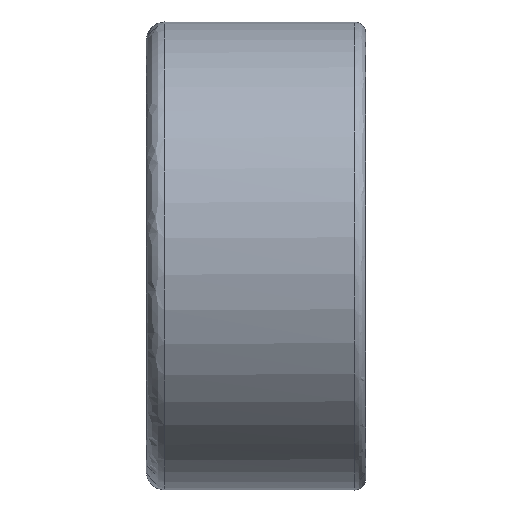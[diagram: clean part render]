
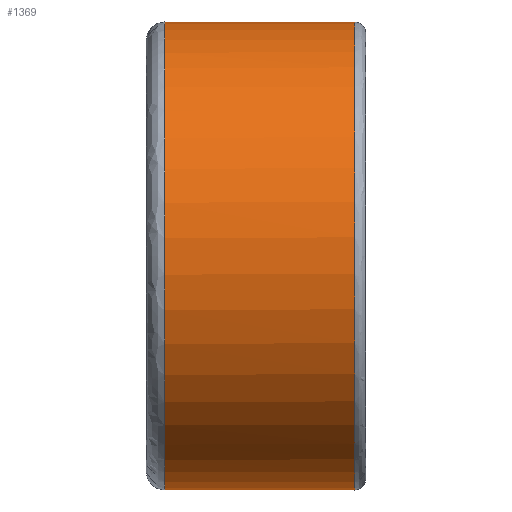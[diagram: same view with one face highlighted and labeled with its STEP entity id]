
A CAD part, front view. The second image highlights one B-rep face of the part: STEP entity #1369.
In plain terms, the highlighted free-form (B-spline) face has degree [2, 1] with [7, 2] control points.
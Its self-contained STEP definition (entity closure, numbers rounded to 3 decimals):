
#119=CARTESIAN_POINT('V3',(28.5,32.0,0.));
#120=VERTEX_POINT('V3',#119);
#136=CARTESIAN_POINT('E6',(28.5,32.0,0.));
#137=CARTESIAN_POINT('E6',(28.5,32.0,
   -55.426));
#138=CARTESIAN_POINT('E6',(28.5,-16.0,
   -27.713));
#139=CARTESIAN_POINT('E6',(28.5,-64.0,0.)
   );
#140=CARTESIAN_POINT('E6',(28.5,-16.0,
   27.713));
#141=CARTESIAN_POINT('E6',(28.5,32.0,
   55.426));
#142=CARTESIAN_POINT('E6',(28.5,32.0,0.));
#150=(BOUNDED_CURVE()B_SPLINE_CURVE(2,(#136,#137,#138,#139,#140,
   #141,#142),.CIRCULAR_ARC.,.T.,.U.)B_SPLINE_CURVE_WITH_KNOTS((3,
   2,2,3),(2.0,29.111,56.222,
   83.333),.UNSPECIFIED.)CURVE()
   GEOMETRIC_REPRESENTATION_ITEM()RATIONAL_B_SPLINE_CURVE((1.0,
   0.5,1.0,0.5,1.0,0.5,1.0)
   )REPRESENTATION_ITEM('E6'));
#151=EDGE_CURVE('E6',#120,#120,#150,.T.);
#226=CARTESIAN_POINT('V1',(2.5,32.0,0.0));
#227=VERTEX_POINT('V1',#226);
#243=CARTESIAN_POINT('E3',(2.5,32.0,0.));
#244=CARTESIAN_POINT('E3',(2.5,32.0,55.426)
   );
#245=CARTESIAN_POINT('E3',(2.5,-16.0,
   27.713));
#246=CARTESIAN_POINT('E3',(2.5,-64.0,0.));
#247=CARTESIAN_POINT('E3',(2.5,-16.0,
   -27.713));
#248=CARTESIAN_POINT('E3',(2.5,32.0,
   -55.426));
#249=CARTESIAN_POINT('E3',(2.5,32.0,0.));
#257=(BOUNDED_CURVE()B_SPLINE_CURVE(2,(#243,#244,#245,#246,#247,
   #248,#249),.CIRCULAR_ARC.,.T.,.U.)B_SPLINE_CURVE_WITH_KNOTS((3,
   2,2,3),(2.0,17.733,33.467,
   49.2),.UNSPECIFIED.)CURVE()
   GEOMETRIC_REPRESENTATION_ITEM()RATIONAL_B_SPLINE_CURVE((1.0,
   0.5,1.0,0.5,1.0,0.5,1.0)
   )REPRESENTATION_ITEM('E3'));
#258=EDGE_CURVE('E3',#227,#227,#257,.T.);
#268=CARTESIAN_POINT('V30',(3.,32.0,0.)
   );
#269=VERTEX_POINT('V30',#268);
#270=CARTESIAN_POINT('V31',(3.,31.225,
   -7.));
#271=VERTEX_POINT('V31',#270);
#272=CARTESIAN_POINT('E46',(3.,32.0,0.)
   );
#273=CARTESIAN_POINT('E46',(3.,32.0,
   -3.543));
#274=CARTESIAN_POINT('E46',(3.,31.225,
   -7.));
#282=(BOUNDED_CURVE()B_SPLINE_CURVE(2,(#272,#273,#274),
   .CIRCULAR_ARC.,.F.,.U.)B_SPLINE_CURVE_WITH_KNOTS((3,3),(0.0,
   0.986),.UNSPECIFIED.)CURVE()
   GEOMETRIC_REPRESENTATION_ITEM()RATIONAL_B_SPLINE_CURVE((1.0,
   0.94,0.894))REPRESENTATION_ITEM('E46'));
#283=EDGE_CURVE('E46',#269,#271,#282,.T.);
#285=CARTESIAN_POINT('V29',(3.,31.225,
   7.));
#286=VERTEX_POINT('V29',#285);
#287=CARTESIAN_POINT('E44',(3.,31.225,
   7.));
#288=CARTESIAN_POINT('E44',(3.,32.0,3.543)
   );
#289=CARTESIAN_POINT('E44',(3.,32.0,0.)
   );
#297=(BOUNDED_CURVE()B_SPLINE_CURVE(2,(#287,#288,#289),
   .CIRCULAR_ARC.,.F.,.U.)B_SPLINE_CURVE_WITH_KNOTS((3,3),(
   0.014,1.0),.UNSPECIFIED.)CURVE()
   GEOMETRIC_REPRESENTATION_ITEM()RATIONAL_B_SPLINE_CURVE((
   0.894,0.94,1.0))REPRESENTATION_ITEM('E44'
   ));
#298=EDGE_CURVE('E44',#286,#269,#297,.T.);
#329=CARTESIAN_POINT('V32',(17.,31.225,
   -7.));
#330=VERTEX_POINT('V32',#329);
#331=CARTESIAN_POINT('E47',(3.,31.225,
   -7.));
#332=CARTESIAN_POINT('E47',(17.,31.225,
   -7.));
#333=B_SPLINE_CURVE_WITH_KNOTS('E47',1,(#331,#332),.POLYLINE_FORM.,
   .F.,.U.,(2,2),(0.007,0.993),
   .UNSPECIFIED.);
#334=EDGE_CURVE('E47',#271,#330,#333,.T.);
#1282=CARTESIAN_POINT('V28',(17.,31.225,
   7.));
#1283=VERTEX_POINT('V28',#1282);
#1284=CARTESIAN_POINT('E43',(17.,31.225,
   7.));
#1285=CARTESIAN_POINT('E43',(3.,31.225,
   7.));
#1286=B_SPLINE_CURVE_WITH_KNOTS('E43',1,(#1284,#1285),
   .POLYLINE_FORM.,.F.,.U.,(2,2),(0.007,
   0.993),.UNSPECIFIED.);
#1287=EDGE_CURVE('E43',#1283,#286,#1286,.T.);
#1299=CARTESIAN_POINT('F24',(30.1,32.0,0.)
   );
#1300=CARTESIAN_POINT('F24',(30.1,32.0,
   -55.426));
#1301=CARTESIAN_POINT('F24',(30.1,-16.0,
   -27.713));
#1302=CARTESIAN_POINT('F24',(30.1,-64.0,0.)
   );
#1303=CARTESIAN_POINT('F24',(30.1,-16.0,
   27.713));
#1304=CARTESIAN_POINT('F24',(30.1,32.0,
   55.426));
#1305=CARTESIAN_POINT('F24',(30.1,32.0,0.)
   );
#1306=CARTESIAN_POINT('F24',(-0.1,32.0,0.)
   );
#1307=CARTESIAN_POINT('F24',(-0.1,32.0,
   -55.426));
#1308=CARTESIAN_POINT('F24',(-0.1,-16.0,
   -27.713));
#1309=CARTESIAN_POINT('F24',(-0.1,-64.0,0.)
   );
#1310=CARTESIAN_POINT('F24',(-0.1,-16.0,
   27.713));
#1311=CARTESIAN_POINT('F24',(-0.1,32.0,
   55.426));
#1312=CARTESIAN_POINT('F24',(-0.1,32.0,0.)
   );
#1320=(BOUNDED_SURFACE()B_SPLINE_SURFACE(2,1,((#1299,#1306),(
   #1300,#1307),(#1301,#1308),(#1302,#1309),(#1303,#1310),(
   #1304,#1311),(#1305,#1312)),.CYLINDRICAL_SURF.,.T.,.F.,.U.)
   B_SPLINE_SURFACE_WITH_KNOTS((3,2,2,3),(2,2),(0.0,
   3.671,7.341,11.012),(0.0,1.0),
   .UNSPECIFIED.)GEOMETRIC_REPRESENTATION_ITEM()
   RATIONAL_B_SPLINE_SURFACE(((1.0,1.0),(0.5,
   0.5),(1.0,1.0),(0.5,
   0.5),(1.0,1.0),(0.5,
   0.5),(1.0,1.0)))REPRESENTATION_ITEM('F24')SURFACE(
   ));
#1321=ORIENTED_EDGE('E43',*,*,#1287,.T.);
#1322=ORIENTED_EDGE('E44',*,*,#298,.T.);
#1323=CARTESIAN_POINT('E45',(3.,32.0,0.0));
#1324=CARTESIAN_POINT('E45',(2.5,32.0,0.0));
#1325=B_SPLINE_CURVE_WITH_KNOTS('E45',1,(#1323,#1324),
   .POLYLINE_FORM.,.F.,.U.,(2,2),(0.897,
   0.914),.UNSPECIFIED.);
#1326=EDGE_CURVE('E45',#269,#227,#1325,.T.);
#1327=ORIENTED_EDGE('E45',*,*,#1326,.T.);
#1328=ORIENTED_EDGE('F1',*,*,#258,.T.);
#1329=ORIENTED_EDGE('E45',*,*,#1326,.F.);
#1330=ORIENTED_EDGE('E46',*,*,#283,.T.);
#1331=ORIENTED_EDGE('E47',*,*,#334,.T.);
#1332=CARTESIAN_POINT('V33',(17.,32.0,0.)
   );
#1333=VERTEX_POINT('V33',#1332);
#1334=CARTESIAN_POINT('E48',(17.,31.225,
   -7.));
#1335=CARTESIAN_POINT('E48',(17.,32.0,
   -3.543));
#1336=CARTESIAN_POINT('E48',(17.,32.0,0.)
   );
#1344=(BOUNDED_CURVE()B_SPLINE_CURVE(2,(#1334,#1335,#1336),
   .CIRCULAR_ARC.,.F.,.U.)B_SPLINE_CURVE_WITH_KNOTS((3,3),(
   0.014,1.0),.UNSPECIFIED.)CURVE()
   GEOMETRIC_REPRESENTATION_ITEM()RATIONAL_B_SPLINE_CURVE((
   0.894,0.94,1.0))REPRESENTATION_ITEM('E48'
   ));
#1345=EDGE_CURVE('E48',#330,#1333,#1344,.T.);
#1346=ORIENTED_EDGE('E48',*,*,#1345,.T.);
#1347=CARTESIAN_POINT('E49',(28.5,32.0,0.0));
#1348=CARTESIAN_POINT('E49',(17.,32.0,0.0));
#1349=B_SPLINE_CURVE_WITH_KNOTS('E49',1,(#1347,#1348),
   .POLYLINE_FORM.,.F.,.U.,(2,2),(0.053,
   0.434),.UNSPECIFIED.);
#1350=EDGE_CURVE('E49',#120,#1333,#1349,.T.);
#1351=ORIENTED_EDGE('E49',*,*,#1350,.F.);
#1352=ORIENTED_EDGE('F3',*,*,#151,.T.);
#1353=ORIENTED_EDGE('E49',*,*,#1350,.T.);
#1354=CARTESIAN_POINT('E50',(17.,32.0,0.)
   );
#1355=CARTESIAN_POINT('E50',(17.,32.0,
   3.543));
#1356=CARTESIAN_POINT('E50',(17.,31.225,
   7.));
#1364=(BOUNDED_CURVE()B_SPLINE_CURVE(2,(#1354,#1355,#1356),
   .CIRCULAR_ARC.,.F.,.U.)B_SPLINE_CURVE_WITH_KNOTS((3,3),(0.0,
   0.986),.UNSPECIFIED.)CURVE()
   GEOMETRIC_REPRESENTATION_ITEM()RATIONAL_B_SPLINE_CURVE((1.0,
   0.94,0.894))REPRESENTATION_ITEM('E50'));
#1365=EDGE_CURVE('E50',#1333,#1283,#1364,.T.);
#1366=ORIENTED_EDGE('E50',*,*,#1365,.T.);
#1367=EDGE_LOOP('F24',(#1321,#1322,#1327,#1328,#1329,#1330,#1331,
   #1346,#1351,#1352,#1353,#1366));
#1368=FACE_OUTER_BOUND('F24',#1367,.T.);
#1369=ADVANCED_FACE('F24',(#1368),#1320,.T.);
